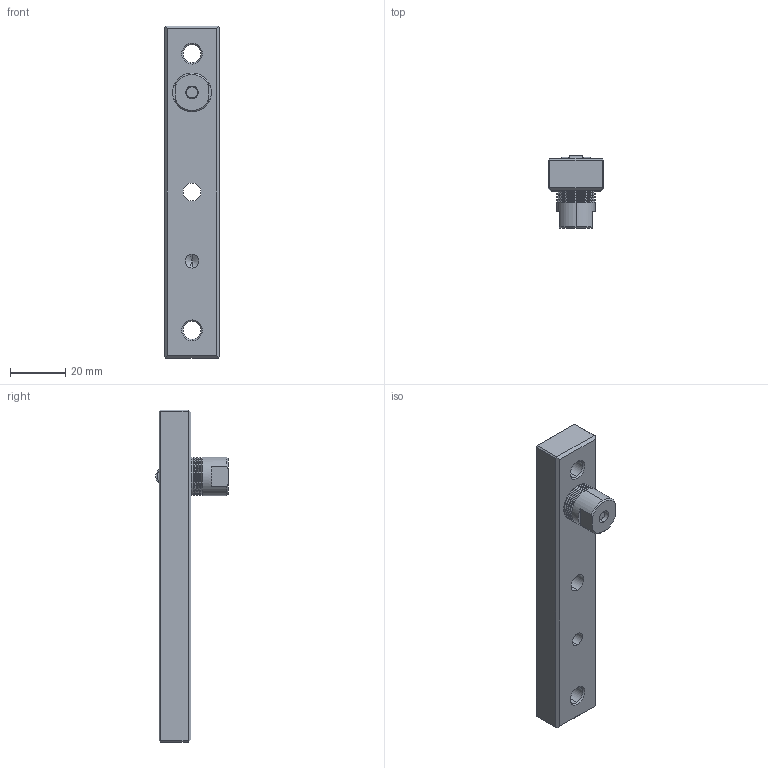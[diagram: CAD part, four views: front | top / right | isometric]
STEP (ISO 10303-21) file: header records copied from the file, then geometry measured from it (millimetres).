
FILE_DESCRIPTION (( 'STEP AP203' ), '1' );
FILE_NAME ('PRI20120.STEP', '2010-06-15T09:29:26', ( ' ' ), ( ' ' ), 'SwSTEP 2.0', 'SolidWorks 2005204', '' );
FILE_SCHEMA (( 'CONFIG_CONTROL_DESIGN' ));
Length unit declared in the file: millimetre
Products named in the file (7): SPINA 3X9_Parallel Pin ISO 8734 - 4 x 18 - A - St; PRI20120; RITENSORE 20; RULLINO6; PERNO RULLINO6; CORPO RITENSORE6
Assembly tree (6 placements, depth 3):
  PRI20120
    RITENSORE 20
      RULLINO6
      SPINA 3X9_Parallel Pin ISO 8734 - 4 x 18 - A - St
      PERNO RULLINO6
      CORPO RITENSORE6
    PRI20120
Bounding box: 20 x 26.2 x 120 mm (x, y, z)
Volume: 26345.1 mm3; surface area: 11558.6 mm2
Topology: 5 solids, 5 shells, 175 faces, 393 edges, 234 vertices
Faces by surface type: cylinder 69, cone 55, plane 49, torus 2
Entity records: 5741 total; most frequent: CARTESIAN_POINT 992, DIRECTION 916, ORIENTED_EDGE 782, EDGE_CURVE 391, AXIS2_PLACEMENT_3D 358, VERTEX_POINT 234, VECTOR 200, LINE 200
